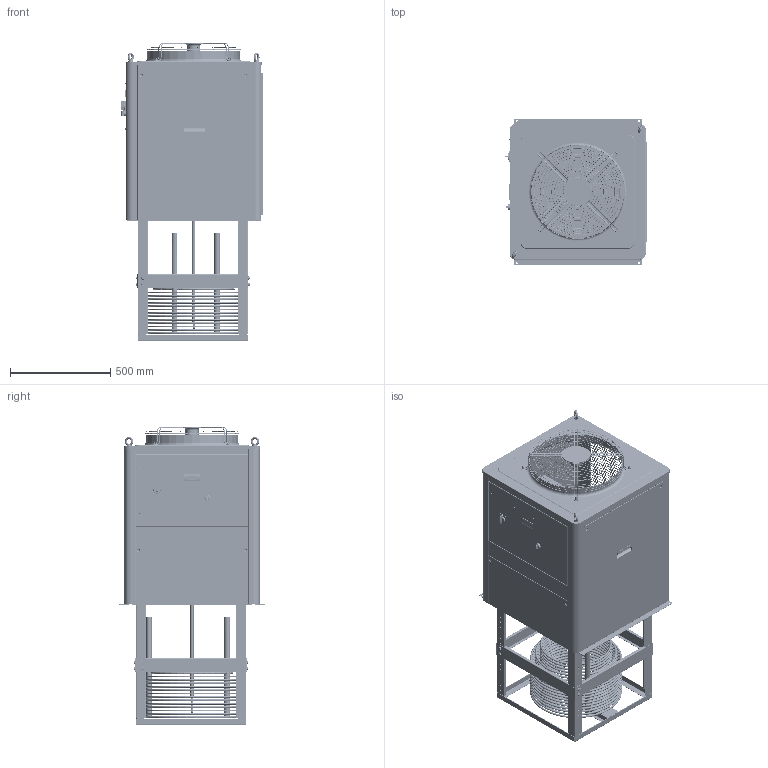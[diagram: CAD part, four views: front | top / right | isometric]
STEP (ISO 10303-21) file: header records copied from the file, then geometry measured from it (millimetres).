
FILE_DESCRIPTION (( 'STEP AP214' ), '1' );
FILE_NAME ('ECIK-070_REV04.STEP', '2025-03-06T10:06:27', ( '' ), ( '' ), 'SwSTEP 2.0', 'SolidWorks 2023', '' );
FILE_SCHEMA (( 'AUTOMOTIVE_DESIGN' ));
Length unit declared in the file: millimetre
Products named in the file (54): ICQ-3HP-1P-FB1.5p-____.STEP; ECIK-070_REV04.STEP; Sportello apertura 2.1.STEP; hex bolts with split pin hole-reduced-b gb_GB_FASTENER_BOLT_HBSPHSRS M8X55-N.STEP; SELETTORE_PICCOLO 54_1.STEP; CR-K7-00001_000A.STEP; CR-K7-00001_000B.STEP; FD-____1mm-FB-KG-__________2022__6__7__.STEP; ICQ-3HP-1P-FB1.5p-____2P______-DCF-BK3P-______.STEP; ICQ-3HP-1P-FB1.5p-____2P______-DCF-BK5P-________________.STEP; ICQ-3J(2).STEP; socket button head screw_iso_ISO 7380 - M5 x 16 - 16N.STEP; hex nut style 1 gradeab_iso_ISO - 4032 - M8 - W - N_1.STEP; VR-K4-00002_000.STEP; ________380V-30A)(2).STEP; ICQ-3HP-1P-FB1.5p-____1.5P______-DCF-BK3P-____.STEP; CR-K7-00001_000.STEP; III-____.STEP; ICQ-3-______450__.STEP; VR-K4-00001_001.STEP; SE-RR-00025_000_1.STEP; eyebolts gb_GB_FASTENER_SCREWS_FRS M10-N COPY.STEP; CR-K7-00001_000C.STEP; CR-K4-00001_001B.STEP; ICQ-3HP-1P-______-1.5HP.STEP; CR-K4-00001_001C.STEP; TE-EL-00007 - EW_971_230V.STEP_1.STEP; CR-K6-00003_001.STEP; ICQ-3HP-1P-FB1.5p-____2P______-DCF-BK3P-______(____).STEP; ICQ-3HP-1P-FB1.5p-____2P______-DCF-BK3P-____1.STEP; ICQ-3______450______.STEP; 439A24.STEP; ICQ-3HP-1P-FB1.5p-____2P______-______________.STEP; ECIK-070_REV04; Targhetta sicurezza_1.STEP; FD-__15BF-________T1.5).STEP; SELETTORE_NERO_BK_1.STEP; hex bolt gradeb_iso_ISO 4015 - M8 x 30 x 22-N_1.STEP; ICQ-3-____.STEP; ICQ-3HP-1P-1.5HP-____________.STEP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
Assembly tree (113 placements, depth 5):
  ECIK-070_REV04
    ECIK-070_REV04.STEP
      ICQ-3J(2).STEP
        ICQ-3______450______.STEP
          FD-____1mm-FB-KG-__________2022__6__7__.STEP  x2
          ICQ-3-______450__.STEP
          hex head bolts-full thread grade c gb_GB_FASTENER_BOLT_HHBFTC M8X20-N.STEP  x4
        ICQ-3HP-1P-FB1.5p-____1.5P______-DCF-BK3P-____.STEP
        ICQ-3HP-1P-FB1.5p-____2P______-DCF-BK3P-______.STEP
        ICQ-3HP-1P-FB1.5p-____.STEP  x2
        ICQ-3HP-1P-FB1.5p-____2P______-DCF-BK3P-____1.STEP
        ICQ-3HP-1P-1.5HP-____________.STEP
        ICQ-3HP-1P-1.5HP-____________-2.STEP
        ICQ-3HP-1P-______-1.5HP.STEP
        ICQ-3HP-1P-FB1.5p-____2P______-DCF-BK3P-______(____).STEP
        ICQ-3HP-1P-FB1.5p-____2P______-______________.STEP
        FD-____1mm-FB-KG-____.STEP  x4
        ICQ-3HP-1P-FB1.5p-____2P______-DCF-BK3P-____.STEP  x2
        ICQ-3-____.STEP  x2
        FD-__15BF-________T1.5).STEP
        hex bolts with split pin hole-reduced-b gb_GB_FASTENER_BOLT_HBSPHSRS M8X55-N.STEP  x4
      Sportello apertura 2.1.STEP
        VR-K4-00001_001.STEP
        SE-RR-00025_000_1.STEP
        SELETTORE_PICCOLO 54_1.STEP
        TE-EL-00007 - EW_971_230V.STEP_1.STEP
        ICQ-3HP-1P-FB1.5p-____2P______-DCF-BK5P-________________.STEP
        439A24.STEP  x2
        SELETTORE_NERO_BK_1.STEP
      CR-K4-00001_001.STEP
        CR-K4-00001_001C.STEP
        CR-K4-00001_001B.STEP
        CR-K4-00001_001A.STEP
      Gabbia telescopica ECIK 070-120-160_CONTRATTA.STEP
        CR-K7-00001_000.STEP
          CR-K7-00001_000A.STEP  x4
          CR-K7-00001_000C.STEP  x4
          CR-K7-00001_000B.STEP
        CR-K6-00003_001.STEP  x4
        CR-K7-00002_000.STEP  x4
      socket button head screw_iso_ISO 7380 - M5 x 30 - 30N.STEP  x2
      socket button head screw_iso_ISO 7380 - M5 x 16 - 16N.STEP  x4
      VR-K4-00004_000.STEP
      VR-K4-00005_000.STEP
      VR-K4-00002_000.STEP
      III-____.STEP
      Targhetta sicurezza_1.STEP
      eyebolts gb_GB_FASTENER_SCREWS_FRS M10-N COPY.STEP  x2
      EVAPORATORE REALE ECIK 70.STEP
      CR-AG-00015_000.STEP
      ________380V-30A)(2).STEP
      hex nut style 1 gradeab_iso_ISO - 4032 - M8 - W - N_1.STEP  x8
      plain washer chamfered grade a_iso_Washer ISO 7090 - 8_1.STEP  x16
      hex bolt gradeb_iso_ISO 4015 - M8 x 30 x 22-N_1.STEP  x8
Bounding box: 714.07 x 731.6 x 1488.25 mm (x, y, z)
Volume: 12850473.2 mm3; surface area: 12881931.9 mm2
Topology: 166 solids, 166 shells, 13537 faces, 37871 edges, 24409 vertices
Faces by surface type: plane 10731, cylinder 1784, torus 539, cone 334, bspline 134, sphere 15
Entity records: 417626 total; most frequent: CARTESIAN_POINT 99731, ORIENTED_EDGE 67400, DIRECTION 59866, EDGE_CURVE 33700, LINE 29362, VECTOR 29362, VERTEX_POINT 21908, EDGE_LOOP 15302
